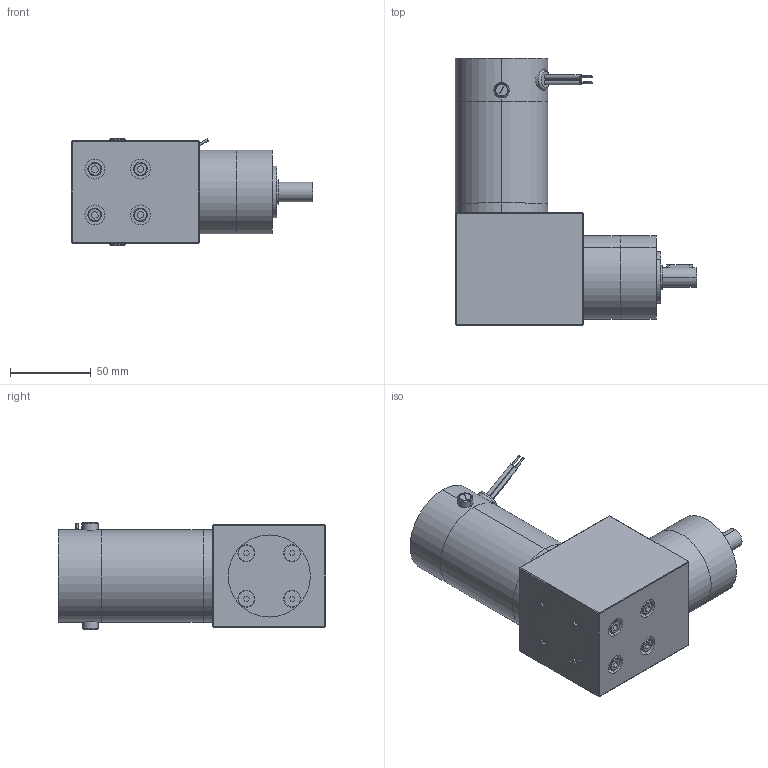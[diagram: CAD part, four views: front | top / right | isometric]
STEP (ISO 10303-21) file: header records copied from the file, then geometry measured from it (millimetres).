
FILE_DESCRIPTION (( 'STEP AP203' ), '1' );
FILE_NAME ('d22376gra1.step', '2018-12-07T19:23:44', ( '' ), ( '' ), 'SwSTEP 2.0', 'SolidWorks 2017', '' );
FILE_SCHEMA (( 'CONFIG_CONTROL_DESIGN' ));
Length unit declared in the file: inch
Products named in the file (1): d22376gra1
Bounding box: 149.17 x 165.4 x 66.04 mm (x, y, z)
Volume: 686839.7 mm3; surface area: 111277.2 mm2
Topology: 24 solids, 24 shells, 558 faces, 1209 edges, 746 vertices
Faces by surface type: plane 244, cylinder 216, cone 87, torus 7, sphere 4
Entity records: 15442 total; most frequent: CARTESIAN_POINT 2824, DIRECTION 2817, ORIENTED_EDGE 2370, EDGE_CURVE 1185, AXIS2_PLACEMENT_3D 1089, VERTEX_POINT 746, EDGE_LOOP 671, LINE 639
